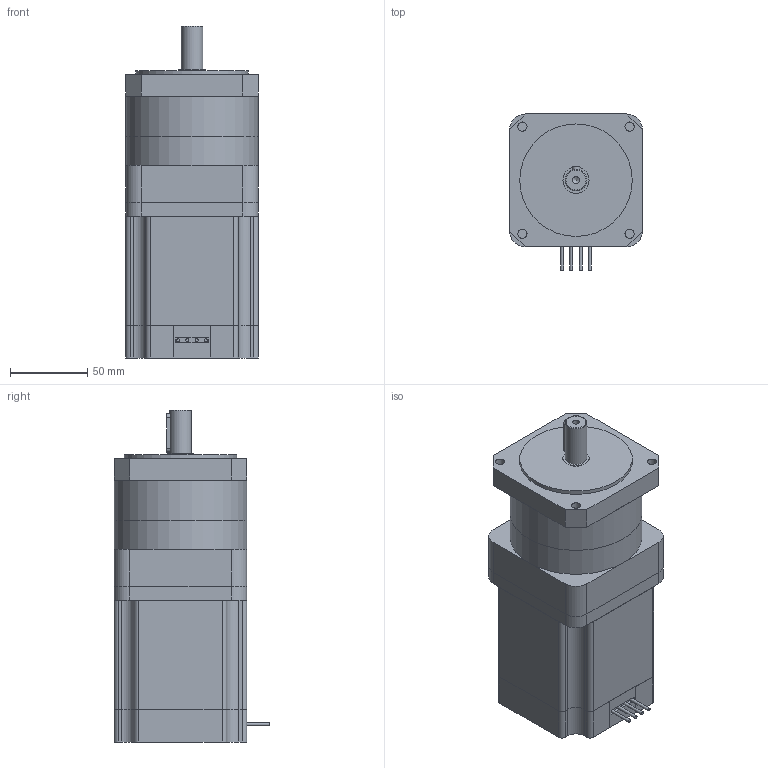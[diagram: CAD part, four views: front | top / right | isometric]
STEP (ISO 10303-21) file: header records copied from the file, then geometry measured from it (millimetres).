
FILE_DESCRIPTION(/* description */ (''),/* implementation_level */ '2;1');
FILE_NAME(/* name */ 'T86PG005-D60-04101.stp',/* time_stamp */ '2018-08-29T15:06:46+08:00',/* author */ (''),/* organization */ (''),/* preprocessor_version */ 'ST-DEVELOPER v11',/* originating_system */ 'SIEMENS UGS NX 6.0',/* authorisation */ '');
FILE_SCHEMA (('CONFIG_CONTROL_DESIGN'));
Length unit declared in the file: millimetre
Products named in the file (1): 86PG003-D60-04101
Bounding box: 86 x 101 x 215.5 mm (x, y, z)
Volume: 1239478.7 mm3; surface area: 142956.8 mm2
Topology: 7 solids, 7 shells, 130 faces, 311 edges, 207 vertices
Faces by surface type: plane 80, cylinder 48, cone 1, torus 1
Full cylindrical faces by diameter (mm): 2 x4, 4.5 x1, 6 x4, 14 x1, 17 x1, 73 x1, 86 x2
Entity records: 3722 total; most frequent: DIRECTION 650, CARTESIAN_POINT 620, ORIENTED_EDGE 576, EDGE_CURVE 288, AXIS2_PLACEMENT_3D 231, VERTEX_POINT 201, LINE 188, VECTOR 188
